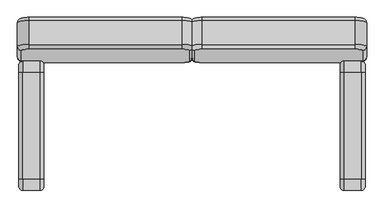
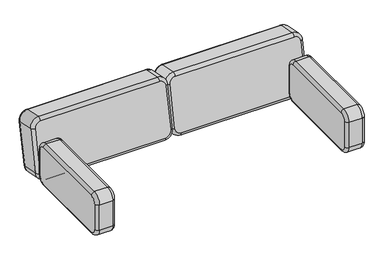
"""IFC4 building model written with IfcOpenShell, lengths in millimetres: furniture geometry, Fredericia - EJ220 Sofa 2 seater 76 - 2042 : Fredericia - EJ220 Sofa 2 seater 76 - 2042."""

from ifc_helpers import new_model, si_unit, point, frame, origin, place, context, project, spatial, circle_curve, ellipse_curve, trimmed, source, transform, mapped, element, save
from ifc_brep_helpers import plane_surface, cylinder_surface, revolved_surface, advanced_brep


def furniture_aac3e620(model_context):
    return source(origin(), model_context, "Body", "AdvancedBrep", [
        advanced_brep(
        [(747.3561856, 570.2227341, 660.8530588), (747.3561856, 110.2227341, 660.8530588), (747.3561856, 77.5549142, 628.1852389), (747.3561856, 77.5549142, 481.6311001), (747.3561856, 110.2227341, 448.9632801), (747.3561856, 570.2227341, 448.9632801), (747.3561856, 602.8905541, 481.6311001), (747.3561856, 602.8905541, 628.1852389), (639.6922336, 110.2227341, 660.8530588), (639.6922336, 570.2227341, 660.8530588), (639.6922336, 602.8905541, 628.1852389), (639.6922336, 602.8905541, 481.6311001), (639.6922336, 570.2227341, 448.9632801), (639.6922336, 110.2227341, 448.9632801), (639.6922336, 77.5549142, 481.6311001), (639.6922336, 77.5549142, 628.1852389), (730.0288568, 570.2227341, 678.1852389), (657.0355758, 570.2227341, 678.1852389), (657.0355758, 110.2227341, 678.1852389), (730.0288568, 110.2227341, 678.1852389), (730.0288568, 60.2227341, 628.1852389), (657.0355758, 60.2227341, 628.1852389), (657.0355758, 60.2227341, 481.6311001), (730.0288568, 60.2227341, 481.6311001), (730.0288568, 110.2227341, 431.6311001), (657.0355758, 110.2227341, 431.6311001), (657.0355758, 570.2227341, 431.6311001), (730.0288568, 570.2227341, 431.6311001), (730.0288568, 620.2227341, 481.6311001), (657.0355758, 620.2227341, 481.6311001), (657.0355758, 620.2227341, 628.1852389), (730.0288568, 620.2227341, 628.1852389)],
        [
            (0, 1),
            (1, 2, circle_curve(frame((747.3561856, 110.2227341, 628.1852389), z_axis=(1.0, 0.0, 0.0), x_axis=(0.0, 0.0, 1.0)), 32.6678199)),
            (2, 3),
            (3, 4, circle_curve(frame((747.3561856, 110.2227341, 481.6311001), z_axis=(1.0, 0.0, 0.0), x_axis=(0.0, -1.0, 0.0)), 32.6678199)),
            (4, 5),
            (5, 6, circle_curve(frame((747.3561856, 570.2227341, 481.6311001), z_axis=(1.0, 0.0, 0.0), x_axis=(0.0, 0.0, -1.0)), 32.6678199)),
            (6, 7),
            (7, 0, circle_curve(frame((747.3561856, 570.2227341, 628.1852389), z_axis=(1.0, 0.0, 0.0), x_axis=(0.0, 1.0, 0.0)), 32.6678199)),
            (8, 9),
            (9, 10, circle_curve(frame((639.6922336, 570.2227341, 628.1852389), z_axis=(-1.0, 0.0, 0.0), x_axis=(0.0, 1.0, 0.0)), 32.6678199)),
            (10, 11),
            (11, 12, circle_curve(frame((639.6922336, 570.2227341, 481.6311001), z_axis=(-1.0, 0.0, 0.0), x_axis=(0.0, 0.0, -1.0)), 32.6678199)),
            (12, 13),
            (13, 14, circle_curve(frame((639.6922336, 110.2227341, 481.6311001), z_axis=(-1.0, 0.0, 0.0), x_axis=(0.0, -1.0, 0.0)), 32.6678199)),
            (14, 15),
            (15, 8, circle_curve(frame((639.6922336, 110.2227341, 628.1852389), z_axis=(-1.0, 0.0, 0.0), x_axis=(0.0, 0.0, 1.0)), 32.6678199)),
            (16, 17),
            (17, 18),
            (18, 19),
            (19, 16),
            (20, 21),
            (21, 22),
            (22, 23),
            (23, 20),
            (24, 25),
            (25, 26),
            (26, 27),
            (27, 24),
            (28, 29),
            (29, 30),
            (30, 31),
            (31, 28),
            (19, 1, circle_curve(frame((730.0288568, 110.2227341, 660.8530588), z_axis=(0.0, 1.0, 0.0), x_axis=(0.0, 0.0, -1.0)), 17.3321801)),
            (0, 16, circle_curve(frame((730.0288568, 570.2227341, 660.8530588), z_axis=(0.0, -1.0, 0.0), x_axis=(0.0, 0.0, -1.0)), 17.3321801)),
            (17, 9, circle_curve(frame((657.0355758, 570.2227341, 660.8530588), z_axis=(0.0, -1.0, 0.0), x_axis=(0.0, 0.0, -1.0)), 17.3321801)),
            (8, 18, circle_curve(frame((657.0355758, 110.2227341, 660.8530588), z_axis=(0.0, 1.0, 0.0), x_axis=(0.0, 0.0, -1.0)), 17.3321801)),
            (23, 3, circle_curve(frame((730.0288568, 77.5549142, 481.6311001), z_axis=(0.0, 0.0, 1.0), x_axis=(0.0, 1.0, 0.0)), 17.3321801)),
            (2, 20, circle_curve(frame((730.0288568, 77.5549142, 628.1852389), z_axis=(0.0, 0.0, -1.0), x_axis=(0.0, 1.0, 0.0)), 17.3321801)),
            (21, 15, circle_curve(frame((657.0355758, 77.5549142, 628.1852389), z_axis=(0.0, 0.0, -1.0), x_axis=(0.0, 1.0, 0.0)), 17.3321801)),
            (14, 22, circle_curve(frame((657.0355758, 77.5549142, 481.6311001), z_axis=(0.0, 0.0, 1.0), x_axis=(0.0, 1.0, 0.0)), 17.3321801)),
            (27, 5, circle_curve(frame((730.0288568, 570.2227341, 448.9632801), z_axis=(0.0, -1.0, 0.0), x_axis=(0.0, 0.0, 1.0)), 17.3321801)),
            (4, 24, circle_curve(frame((730.0288568, 110.2227341, 448.9632801), z_axis=(0.0, 1.0, 0.0), x_axis=(0.0, 0.0, 1.0)), 17.3321801)),
            (25, 13, circle_curve(frame((657.0355758, 110.2227341, 448.9632801), z_axis=(0.0, 1.0, 0.0), x_axis=(0.0, 0.0, 1.0)), 17.3321801)),
            (12, 26, circle_curve(frame((657.0355758, 570.2227341, 448.9632801), z_axis=(0.0, -1.0, 0.0), x_axis=(0.0, 0.0, 1.0)), 17.3321801)),
            (31, 7, circle_curve(frame((730.0288568, 602.8905541, 628.1852389), z_axis=(0.0, 0.0, -1.0), x_axis=(0.0, -1.0, 0.0)), 17.3321801)),
            (6, 28, circle_curve(frame((730.0288568, 602.8905541, 481.6311001), z_axis=(0.0, 0.0, 1.0), x_axis=(0.0, -1.0, 0.0)), 17.3321801)),
            (29, 11, circle_curve(frame((657.0355758, 602.8905541, 481.6311001), z_axis=(0.0, 0.0, 1.0), x_axis=(0.0, -1.0, 0.0)), 17.3321801)),
            (10, 30, circle_curve(frame((657.0355758, 602.8905541, 628.1852389), z_axis=(0.0, 0.0, -1.0), x_axis=(0.0, -1.0, 0.0)), 17.3321801)),
            (31, 16, circle_curve(frame((730.0288568, 570.2227341, 628.1852389), z_axis=(1.0, 0.0, 0.0), x_axis=(0.0, 1.0, 0.0)), 50.0)),
            (30, 17, circle_curve(frame((657.0355758, 570.2227341, 628.1852389), z_axis=(1.0, 0.0, 0.0), x_axis=(0.0, 1.0, 0.0)), 50.0)),
            (19, 20, circle_curve(frame((730.0288568, 110.2227341, 628.1852389), z_axis=(1.0, 0.0, 0.0), x_axis=(0.0, 0.0, 1.0)), 50.0)),
            (18, 21, circle_curve(frame((657.0355758, 110.2227341, 628.1852389), z_axis=(1.0, 0.0, 0.0), x_axis=(0.0, 0.0, 1.0)), 50.0)),
            (23, 24, circle_curve(frame((730.0288568, 110.2227341, 481.6311001), z_axis=(1.0, 0.0, 0.0), x_axis=(0.0, -1.0, 0.0)), 50.0)),
            (22, 25, circle_curve(frame((657.0355758, 110.2227341, 481.6311001), z_axis=(1.0, 0.0, 0.0), x_axis=(0.0, -1.0, 0.0)), 50.0)),
            (27, 28, circle_curve(frame((730.0288568, 570.2227341, 481.6311001), z_axis=(1.0, 0.0, 0.0), x_axis=(0.0, 0.0, -1.0)), 50.0)),
            (26, 29, circle_curve(frame((657.0355758, 570.2227341, 481.6311001), z_axis=(1.0, 0.0, 0.0), x_axis=(0.0, 0.0, -1.0)), 50.0)),
        ],
        [
            plane_surface(frame((747.3561856, 110.2227341, 598.1852389), z_axis=(1.0, 0.0, 0.0), x_axis=(0.0, 1.0, 0.0))),
            plane_surface(frame((639.6922336, 110.2227341, 598.1852389), z_axis=(-1.0, 0.0, 0.0), x_axis=(0.0, -1.0, 0.0))),
            plane_surface(frame((657.0355758, 570.2227341, 678.1852389), z_axis=(0.0, 0.0, 1.0), x_axis=(0.0, -1.0, 0.0))),
            plane_surface(frame((657.0355758, 60.2227341, 628.1852389), z_axis=(0.0, -1.0, 0.0), x_axis=(0.0, 0.0, -1.0))),
            plane_surface(frame((657.0355758, 110.2227341, 431.6311001), z_axis=(0.0, 0.0, -1.0), x_axis=(0.0, 1.0, 0.0))),
            plane_surface(frame((657.0355758, 620.2227341, 481.6311001), z_axis=(0.0, 1.0, 0.0), x_axis=(0.0, 0.0, 1.0))),
            cylinder_surface(frame((730.0288568, 570.2227341, 660.8530588), z_axis=(0.0, 1.0, 0.0), x_axis=(0.0, 0.0, -1.0)), 17.3321801),
            cylinder_surface(frame((657.0355758, 570.2227341, 660.8530588), z_axis=(0.0, 1.0, 0.0), x_axis=(0.0, 0.0, -1.0)), 17.3321801),
            cylinder_surface(frame((730.0288568, 77.5549142, 628.1852389), z_axis=(0.0, 0.0, 1.0), x_axis=(0.0, 1.0, 0.0)), 17.3321801),
            cylinder_surface(frame((657.0355758, 77.5549142, 628.1852389), z_axis=(0.0, 0.0, 1.0), x_axis=(0.0, 1.0, 0.0)), 17.3321801),
            cylinder_surface(frame((730.0288568, 110.2227341, 448.9632801), z_axis=(0.0, -1.0, 0.0), x_axis=(0.0, 0.0, 1.0)), 17.3321801),
            cylinder_surface(frame((657.0355758, 110.2227341, 448.9632801), z_axis=(0.0, -1.0, 0.0), x_axis=(0.0, 0.0, 1.0)), 17.3321801),
            cylinder_surface(frame((730.0288568, 602.8905541, 481.6311001), z_axis=(0.0, 0.0, -1.0), x_axis=(0.0, -1.0, 0.0)), 17.3321801),
            cylinder_surface(frame((657.0355758, 602.8905541, 481.6311001), z_axis=(0.0, 0.0, -1.0), x_axis=(0.0, -1.0, 0.0)), 17.3321801),
            revolved_surface(trimmed(ellipse_curve(frame((730.0288568, 602.8905541, 628.1852389), z_axis=(0.0, 0.0, -1.0), x_axis=(0.0, -1.0, 0.0)), 17.3321801, 17.3321801), [point((730.0288568, 620.2227341, 628.1852389))], [point((747.3610368, 602.8905541, 628.1852389))], True, "CARTESIAN"), (562.639204, 570.2227341, 628.1852389), (1.0, 0.0, 0.0)),
            cylinder_surface(frame((562.639204, 570.2227341, 628.1852389), z_axis=(1.0, 0.0, 0.0), x_axis=(0.0, 1.0, 0.0)), 50.0),
            revolved_surface(trimmed(ellipse_curve(frame((657.0355758, 602.8905541, 628.1852389), z_axis=(0.0, 0.0, -1.0), x_axis=(0.0, -1.0, 0.0)), 17.3321801, 17.3321801), [point((639.7033957, 602.8905541, 628.1852389))], [point((657.0355758, 620.2227341, 628.1852389))], True, "CARTESIAN"), (562.639204, 570.2227341, 628.1852389), (1.0, 0.0, 0.0)),
            revolved_surface(trimmed(ellipse_curve(frame((730.0288568, 110.2227341, 660.8530588), z_axis=(0.0, 1.0, 0.0), x_axis=(0.0, 0.0, -1.0)), 17.3321801, 17.3321801), [point((730.0288568, 110.2227341, 678.1852389))], [point((747.3610368, 110.2227341, 660.8530588))], True, "CARTESIAN"), (562.639204, 110.2227341, 628.1852389), (1.0, 0.0, 0.0)),
            cylinder_surface(frame((562.639204, 110.2227341, 628.1852389), z_axis=(1.0, 0.0, 0.0), x_axis=(0.0, 0.0, 1.0)), 50.0),
            revolved_surface(trimmed(ellipse_curve(frame((657.0355758, 110.2227341, 660.8530588), z_axis=(0.0, 1.0, 0.0), x_axis=(0.0, 0.0, -1.0)), 17.3321801, 17.3321801), [point((639.7033957, 110.2227341, 660.8530588))], [point((657.0355758, 110.2227341, 678.1852389))], True, "CARTESIAN"), (562.639204, 110.2227341, 628.1852389), (1.0, 0.0, 0.0)),
            revolved_surface(trimmed(ellipse_curve(frame((730.0288568, 77.5549142, 481.6311001), z_axis=(0.0, 0.0, 1.0), x_axis=(0.0, 1.0, 0.0)), 17.3321801, 17.3321801), [point((730.0288568, 60.2227341, 481.6311001))], [point((747.3610368, 77.5549142, 481.6311001))], True, "CARTESIAN"), (562.639204, 110.2227341, 481.6311001), (1.0, 0.0, 0.0)),
            cylinder_surface(frame((562.639204, 110.2227341, 481.6311001), z_axis=(1.0, 0.0, 0.0), x_axis=(0.0, -1.0, 0.0)), 50.0),
            revolved_surface(trimmed(ellipse_curve(frame((657.0355758, 77.5549142, 481.6311001), z_axis=(0.0, 0.0, 1.0), x_axis=(0.0, 1.0, 0.0)), 17.3321801, 17.3321801), [point((639.7033957, 77.5549142, 481.6311001))], [point((657.0355758, 60.2227341, 481.6311001))], True, "CARTESIAN"), (562.639204, 110.2227341, 481.6311001), (1.0, 0.0, 0.0)),
            revolved_surface(trimmed(ellipse_curve(frame((730.0288568, 570.2227341, 448.9632801), z_axis=(0.0, -1.0, 0.0), x_axis=(0.0, 0.0, 1.0)), 17.3321801, 17.3321801), [point((730.0288568, 570.2227341, 431.6311001))], [point((747.3610368, 570.2227341, 448.9632801))], True, "CARTESIAN"), (562.639204, 570.2227341, 481.6311001), (1.0, 0.0, 0.0)),
            cylinder_surface(frame((562.639204, 570.2227341, 481.6311001), z_axis=(1.0, 0.0, 0.0), x_axis=(0.0, 0.0, -1.0)), 50.0),
            revolved_surface(trimmed(ellipse_curve(frame((657.0355758, 570.2227341, 448.9632801), z_axis=(0.0, -1.0, 0.0), x_axis=(0.0, 0.0, 1.0)), 17.3321801, 17.3321801), [point((639.7033957, 570.2227341, 448.9632801))], [point((657.0355758, 570.2227341, 431.6311001))], True, "CARTESIAN"), (562.639204, 570.2227341, 481.6311001), (1.0, 0.0, 0.0)),
        ],
        [
            (0, [[1, 2, 3, 4, 5, 6, 7, 8]]),
            (1, [[9, 10, 11, 12, 13, 14, 15, 16]]),
            (2, [[17, 18, 19, 20]]),
            (3, [[21, 22, 23, 24]]),
            (4, [[25, 26, 27, 28]]),
            (5, [[29, 30, 31, 32]]),
            (6, [[-20, 33, -1, 34]]),
            (7, [[-18, 35, -9, 36]]),
            (8, [[-24, 37, -3, 38]]),
            (9, [[-22, 39, -15, 40]]),
            (10, [[-28, 41, -5, 42]]),
            (11, [[-26, 43, -13, 44]]),
            (12, [[-32, 45, -7, 46]]),
            (13, [[-30, 47, -11, 48]]),
            (14, [[-34, -8, -45, 49]]),
            (15, [[-17, -49, -31, 50]]),
            (16, [[-35, -50, -48, -10]]),
            (17, [[-33, 51, -38, -2]]),
            (18, [[-19, 52, -21, -51]]),
            (19, [[-36, -16, -39, -52]]),
            (20, [[-37, 53, -42, -4]]),
            (21, [[-23, 54, -25, -53]]),
            (22, [[-40, -14, -43, -54]]),
            (23, [[-41, 55, -46, -6]]),
            (24, [[-27, 56, -29, -55]]),
            (25, [[-44, -12, -47, -56]]),
        ],
    ),
        advanced_brep(
        [(-747.3561856, 110.2227341, 660.8530588), (-747.3561856, 570.2227341, 660.8530588), (-747.3561856, 602.8905541, 628.1852389), (-747.3561856, 602.8905541, 481.6311001), (-747.3561856, 570.2227341, 448.9632801), (-747.3561856, 110.2227341, 448.9632801), (-747.3561856, 77.5549142, 481.6311001), (-747.3561856, 77.5549142, 628.1852389), (-639.6922336, 570.2227341, 660.8530588), (-639.6922336, 110.2227341, 660.8530588), (-639.6922336, 77.5549142, 628.1852389), (-639.6922336, 77.5549142, 481.6311001), (-639.6922336, 110.2227341, 448.9632801), (-639.6922336, 570.2227341, 448.9632801), (-639.6922336, 602.8905541, 481.6311001), (-639.6922336, 602.8905541, 628.1852389), (-657.0355758, 570.2227341, 678.1852389), (-730.0288568, 570.2227341, 678.1852389), (-730.0288568, 110.2227341, 678.1852389), (-657.0355758, 110.2227341, 678.1852389), (-657.0355758, 60.2227341, 628.1852389), (-730.0288568, 60.2227341, 628.1852389), (-730.0288568, 60.2227341, 481.6311001), (-657.0355758, 60.2227341, 481.6311001), (-657.0355758, 110.2227341, 431.6311001), (-730.0288568, 110.2227341, 431.6311001), (-730.0288568, 570.2227341, 431.6311001), (-657.0355758, 570.2227341, 431.6311001), (-657.0355758, 620.2227341, 481.6311001), (-730.0288568, 620.2227341, 481.6311001), (-730.0288568, 620.2227341, 628.1852389), (-657.0355758, 620.2227341, 628.1852389)],
        [
            (0, 1),
            (1, 2, circle_curve(frame((-747.3561856, 570.2227341, 628.1852389), z_axis=(-1.0, 0.0, 0.0), x_axis=(0.0, 1.0, 0.0)), 32.6678199)),
            (2, 3),
            (3, 4, circle_curve(frame((-747.3561856, 570.2227341, 481.6311001), z_axis=(-1.0, 0.0, 0.0), x_axis=(0.0, 0.0, -1.0)), 32.6678199)),
            (4, 5),
            (5, 6, circle_curve(frame((-747.3561856, 110.2227341, 481.6311001), z_axis=(-1.0, 0.0, 0.0), x_axis=(0.0, -1.0, 0.0)), 32.6678199)),
            (6, 7),
            (7, 0, circle_curve(frame((-747.3561856, 110.2227341, 628.1852389), z_axis=(-1.0, 0.0, 0.0), x_axis=(0.0, 0.0, 1.0)), 32.6678199)),
            (8, 9),
            (9, 10, circle_curve(frame((-639.6922336, 110.2227341, 628.1852389), z_axis=(1.0, 0.0, 0.0), x_axis=(0.0, 0.0, 1.0)), 32.6678199)),
            (10, 11),
            (11, 12, circle_curve(frame((-639.6922336, 110.2227341, 481.6311001), z_axis=(1.0, 0.0, 0.0), x_axis=(0.0, -1.0, 0.0)), 32.6678199)),
            (12, 13),
            (13, 14, circle_curve(frame((-639.6922336, 570.2227341, 481.6311001), z_axis=(1.0, 0.0, 0.0), x_axis=(0.0, 0.0, -1.0)), 32.6678199)),
            (14, 15),
            (15, 8, circle_curve(frame((-639.6922336, 570.2227341, 628.1852389), z_axis=(1.0, 0.0, 0.0), x_axis=(0.0, 1.0, 0.0)), 32.6678199)),
            (16, 17),
            (17, 18),
            (18, 19),
            (19, 16),
            (20, 21),
            (21, 22),
            (22, 23),
            (23, 20),
            (24, 25),
            (25, 26),
            (26, 27),
            (27, 24),
            (28, 29),
            (29, 30),
            (30, 31),
            (31, 28),
            (17, 1, circle_curve(frame((-730.0288568, 570.2227341, 660.8530588), z_axis=(0.0, -1.0, 0.0), x_axis=(0.0, 0.0, -1.0)), 17.3321801)),
            (0, 18, circle_curve(frame((-730.0288568, 110.2227341, 660.8530588), z_axis=(0.0, 1.0, 0.0), x_axis=(0.0, 0.0, -1.0)), 17.3321801)),
            (19, 9, circle_curve(frame((-657.0355758, 110.2227341, 660.8530588), z_axis=(0.0, 1.0, 0.0), x_axis=(0.0, 0.0, -1.0)), 17.3321801)),
            (8, 16, circle_curve(frame((-657.0355758, 570.2227341, 660.8530588), z_axis=(0.0, -1.0, 0.0), x_axis=(0.0, 0.0, -1.0)), 17.3321801)),
            (21, 7, circle_curve(frame((-730.0288568, 77.5549142, 628.1852389), z_axis=(0.0, 0.0, -1.0), x_axis=(0.0, 1.0, 0.0)), 17.3321801)),
            (6, 22, circle_curve(frame((-730.0288568, 77.5549142, 481.6311001), z_axis=(0.0, 0.0, 1.0), x_axis=(0.0, 1.0, 0.0)), 17.3321801)),
            (23, 11, circle_curve(frame((-657.0355758, 77.5549142, 481.6311001), z_axis=(0.0, 0.0, 1.0), x_axis=(0.0, 1.0, 0.0)), 17.3321801)),
            (10, 20, circle_curve(frame((-657.0355758, 77.5549142, 628.1852389), z_axis=(0.0, 0.0, -1.0), x_axis=(0.0, 1.0, 0.0)), 17.3321801)),
            (25, 5, circle_curve(frame((-730.0288568, 110.2227341, 448.9632801), z_axis=(0.0, 1.0, 0.0), x_axis=(0.0, 0.0, 1.0)), 17.3321801)),
            (4, 26, circle_curve(frame((-730.0288568, 570.2227341, 448.9632801), z_axis=(0.0, -1.0, 0.0), x_axis=(0.0, 0.0, 1.0)), 17.3321801)),
            (27, 13, circle_curve(frame((-657.0355758, 570.2227341, 448.9632801), z_axis=(0.0, -1.0, 0.0), x_axis=(0.0, 0.0, 1.0)), 17.3321801)),
            (12, 24, circle_curve(frame((-657.0355758, 110.2227341, 448.9632801), z_axis=(0.0, 1.0, 0.0), x_axis=(0.0, 0.0, 1.0)), 17.3321801)),
            (29, 3, circle_curve(frame((-730.0288568, 602.8905541, 481.6311001), z_axis=(0.0, 0.0, 1.0), x_axis=(0.0, -1.0, 0.0)), 17.3321801)),
            (2, 30, circle_curve(frame((-730.0288568, 602.8905541, 628.1852389), z_axis=(0.0, 0.0, -1.0), x_axis=(0.0, -1.0, 0.0)), 17.3321801)),
            (31, 15, circle_curve(frame((-657.0355758, 602.8905541, 628.1852389), z_axis=(0.0, 0.0, -1.0), x_axis=(0.0, -1.0, 0.0)), 17.3321801)),
            (14, 28, circle_curve(frame((-657.0355758, 602.8905541, 481.6311001), z_axis=(0.0, 0.0, 1.0), x_axis=(0.0, -1.0, 0.0)), 17.3321801)),
            (17, 30, circle_curve(frame((-730.0288568, 570.2227341, 628.1852389), z_axis=(-1.0, 0.0, 0.0), x_axis=(0.0, 1.0, 0.0)), 50.0)),
            (16, 31, circle_curve(frame((-657.0355758, 570.2227341, 628.1852389), z_axis=(-1.0, 0.0, 0.0), x_axis=(0.0, 1.0, 0.0)), 50.0)),
            (21, 18, circle_curve(frame((-730.0288568, 110.2227341, 628.1852389), z_axis=(-1.0, 0.0, 0.0), x_axis=(0.0, 0.0, 1.0)), 50.0)),
            (20, 19, circle_curve(frame((-657.0355758, 110.2227341, 628.1852389), z_axis=(-1.0, 0.0, 0.0), x_axis=(0.0, 0.0, 1.0)), 50.0)),
            (25, 22, circle_curve(frame((-730.0288568, 110.2227341, 481.6311001), z_axis=(-1.0, 0.0, 0.0), x_axis=(0.0, -1.0, 0.0)), 50.0)),
            (24, 23, circle_curve(frame((-657.0355758, 110.2227341, 481.6311001), z_axis=(-1.0, 0.0, 0.0), x_axis=(0.0, -1.0, 0.0)), 50.0)),
            (29, 26, circle_curve(frame((-730.0288568, 570.2227341, 481.6311001), z_axis=(-1.0, 0.0, 0.0), x_axis=(0.0, 0.0, -1.0)), 50.0)),
            (28, 27, circle_curve(frame((-657.0355758, 570.2227341, 481.6311001), z_axis=(-1.0, 0.0, 0.0), x_axis=(0.0, 0.0, -1.0)), 50.0)),
        ],
        [
            plane_surface(frame((-747.3561856, 80.2227341, 34.6780204), z_axis=(-1.0, 0.0, 0.0), x_axis=(0.0, 0.0, 1.0))),
            plane_surface(frame((-639.6922336, 80.2227341, 34.6780204), z_axis=(1.0, 0.0, 0.0), x_axis=(0.0, 0.0, -1.0))),
            plane_surface(frame((-730.0288568, 570.2227341, 678.1852389), z_axis=(0.0, 0.0, 1.0), x_axis=(0.0, -1.0, 0.0))),
            plane_surface(frame((-730.0288568, 60.2227341, 628.1852389), z_axis=(0.0, -1.0, 0.0), x_axis=(0.0, 0.0, -1.0))),
            plane_surface(frame((-730.0288568, 110.2227341, 431.6311001), z_axis=(0.0, 0.0, -1.0), x_axis=(0.0, 1.0, 0.0))),
            plane_surface(frame((-730.0288568, 620.2227341, 481.6311001), z_axis=(0.0, 1.0, 0.0), x_axis=(0.0, 0.0, 1.0))),
            cylinder_surface(frame((-730.0288568, 570.2227341, 660.8530588), z_axis=(0.0, 1.0, 0.0), x_axis=(0.0, 0.0, -1.0)), 17.3321801),
            cylinder_surface(frame((-657.0355758, 570.2227341, 660.8530588), z_axis=(0.0, 1.0, 0.0), x_axis=(0.0, 0.0, -1.0)), 17.3321801),
            cylinder_surface(frame((-730.0288568, 77.5549142, 628.1852389), z_axis=(0.0, 0.0, 1.0), x_axis=(0.0, 1.0, 0.0)), 17.3321801),
            cylinder_surface(frame((-657.0355758, 77.5549142, 628.1852389), z_axis=(0.0, 0.0, 1.0), x_axis=(0.0, 1.0, 0.0)), 17.3321801),
            cylinder_surface(frame((-730.0288568, 110.2227341, 448.9632801), z_axis=(0.0, -1.0, 0.0), x_axis=(0.0, 0.0, 1.0)), 17.3321801),
            cylinder_surface(frame((-657.0355758, 110.2227341, 448.9632801), z_axis=(0.0, -1.0, 0.0), x_axis=(0.0, 0.0, 1.0)), 17.3321801),
            cylinder_surface(frame((-730.0288568, 602.8905541, 481.6311001), z_axis=(0.0, 0.0, -1.0), x_axis=(0.0, -1.0, 0.0)), 17.3321801),
            cylinder_surface(frame((-657.0355758, 602.8905541, 481.6311001), z_axis=(0.0, 0.0, -1.0), x_axis=(0.0, -1.0, 0.0)), 17.3321801),
            revolved_surface(trimmed(ellipse_curve(frame((-730.0288568, 602.8905541, 628.1852389), z_axis=(0.0, 0.0, -1.0), x_axis=(0.0, -1.0, 0.0)), 17.3321801, 17.3321801), [point((-747.3610368, 602.8905541, 628.1852389))], [point((-730.0288568, 620.2227341, 628.1852389))], True, "CARTESIAN"), (-562.639204, 570.2227341, 628.1852389), (1.0, 0.0, 0.0)),
            cylinder_surface(frame((-562.639204, 570.2227341, 628.1852389), z_axis=(1.0, 0.0, 0.0), x_axis=(0.0, 1.0, 0.0)), 50.0),
            revolved_surface(trimmed(ellipse_curve(frame((-657.0355758, 602.8905541, 628.1852389), z_axis=(0.0, 0.0, -1.0), x_axis=(0.0, -1.0, 0.0)), 17.3321801, 17.3321801), [point((-657.0355758, 620.2227341, 628.1852389))], [point((-639.7033957, 602.8905541, 628.1852389))], True, "CARTESIAN"), (-562.639204, 570.2227341, 628.1852389), (1.0, 0.0, 0.0)),
            revolved_surface(trimmed(ellipse_curve(frame((-730.0288568, 110.2227341, 660.8530588), z_axis=(0.0, 1.0, 0.0), x_axis=(0.0, 0.0, -1.0)), 17.3321801, 17.3321801), [point((-747.3610368, 110.2227341, 660.8530588))], [point((-730.0288568, 110.2227341, 678.1852389))], True, "CARTESIAN"), (-562.639204, 110.2227341, 628.1852389), (1.0, 0.0, 0.0)),
            cylinder_surface(frame((-562.639204, 110.2227341, 628.1852389), z_axis=(1.0, 0.0, 0.0), x_axis=(0.0, 0.0, 1.0)), 50.0),
            revolved_surface(trimmed(ellipse_curve(frame((-657.0355758, 110.2227341, 660.8530588), z_axis=(0.0, 1.0, 0.0), x_axis=(0.0, 0.0, -1.0)), 17.3321801, 17.3321801), [point((-657.0355758, 110.2227341, 678.1852389))], [point((-639.7033957, 110.2227341, 660.8530588))], True, "CARTESIAN"), (-562.639204, 110.2227341, 628.1852389), (1.0, 0.0, 0.0)),
            revolved_surface(trimmed(ellipse_curve(frame((-730.0288568, 77.5549142, 481.6311001), z_axis=(0.0, 0.0, 1.0), x_axis=(0.0, 1.0, 0.0)), 17.3321801, 17.3321801), [point((-747.3610368, 77.5549142, 481.6311001))], [point((-730.0288568, 60.2227341, 481.6311001))], True, "CARTESIAN"), (-562.639204, 110.2227341, 481.6311001), (1.0, 0.0, 0.0)),
            cylinder_surface(frame((-562.639204, 110.2227341, 481.6311001), z_axis=(1.0, 0.0, 0.0), x_axis=(0.0, -1.0, 0.0)), 50.0),
            revolved_surface(trimmed(ellipse_curve(frame((-657.0355758, 77.5549142, 481.6311001), z_axis=(0.0, 0.0, 1.0), x_axis=(0.0, 1.0, 0.0)), 17.3321801, 17.3321801), [point((-657.0355758, 60.2227341, 481.6311001))], [point((-639.7033957, 77.5549142, 481.6311001))], True, "CARTESIAN"), (-562.639204, 110.2227341, 481.6311001), (1.0, 0.0, 0.0)),
            revolved_surface(trimmed(ellipse_curve(frame((-730.0288568, 570.2227341, 448.9632801), z_axis=(0.0, -1.0, 0.0), x_axis=(0.0, 0.0, 1.0)), 17.3321801, 17.3321801), [point((-747.3610368, 570.2227341, 448.9632801))], [point((-730.0288568, 570.2227341, 431.6311001))], True, "CARTESIAN"), (-562.639204, 570.2227341, 481.6311001), (1.0, 0.0, 0.0)),
            cylinder_surface(frame((-562.639204, 570.2227341, 481.6311001), z_axis=(1.0, 0.0, 0.0), x_axis=(0.0, 0.0, -1.0)), 50.0),
            revolved_surface(trimmed(ellipse_curve(frame((-657.0355758, 570.2227341, 448.9632801), z_axis=(0.0, -1.0, 0.0), x_axis=(0.0, 0.0, 1.0)), 17.3321801, 17.3321801), [point((-657.0355758, 570.2227341, 431.6311001))], [point((-639.7033957, 570.2227341, 448.9632801))], True, "CARTESIAN"), (-562.639204, 570.2227341, 481.6311001), (1.0, 0.0, 0.0)),
        ],
        [
            (0, [[1, 2, 3, 4, 5, 6, 7, 8]]),
            (1, [[9, 10, 11, 12, 13, 14, 15, 16]]),
            (2, [[17, 18, 19, 20]]),
            (3, [[21, 22, 23, 24]]),
            (4, [[25, 26, 27, 28]]),
            (5, [[29, 30, 31, 32]]),
            (6, [[-18, 33, -1, 34]]),
            (7, [[-20, 35, -9, 36]]),
            (8, [[-22, 37, -7, 38]]),
            (9, [[-24, 39, -11, 40]]),
            (10, [[-26, 41, -5, 42]]),
            (11, [[-28, 43, -13, 44]]),
            (12, [[-30, 45, -3, 46]]),
            (13, [[-32, 47, -15, 48]]),
            (14, [[-33, 49, -46, -2]]),
            (15, [[-17, 50, -31, -49]]),
            (16, [[-36, -16, -47, -50]]),
            (17, [[-34, -8, -37, 51]]),
            (18, [[-19, -51, -21, 52]]),
            (19, [[-35, -52, -40, -10]]),
            (20, [[-38, -6, -41, 53]]),
            (21, [[-23, -53, -25, 54]]),
            (22, [[-39, -54, -44, -12]]),
            (23, [[-42, -4, -45, 55]]),
            (24, [[-27, -55, -29, 56]]),
            (25, [[-43, -56, -48, -14]]),
        ],
    ),
        advanced_brep(
        [(736.1484253, 619.8100699, 478.8361951), (736.1484253, 664.9135782, 710.8736296), (703.4806054, 671.1468921, 742.9412497), (45.0, 671.1468921, 742.9412497), (12.3321801, 664.9135782, 710.8736296), (12.3321801, 619.8100699, 478.8361951), (45.0, 613.576756, 446.7685751), (703.4806054, 613.576756, 446.7685751), (736.1484253, 802.1658592, 684.1944888), (736.1484253, 757.062351, 452.1570543), (703.4806054, 750.8290371, 420.0894343), (45.0, 750.8290371, 420.0894343), (12.3321801, 757.062351, 452.1570543), (12.3321801, 802.1658592, 684.1944888), (45.0, 808.3991731, 716.2621088), (703.4806054, 808.3991731, 716.2621088), (753.4806054, 636.819047, 475.5299849), (753.4806054, 740.0486118, 455.4641902), (753.4806054, 785.1521201, 687.5016246), (753.4806054, 681.9225552, 707.5674194), (703.4806054, 691.463005, 756.6487785), (703.4806054, 794.6925699, 736.5829838), (45.0, 794.6925699, 736.5829838), (45.0, 691.463005, 756.6487785), (-5.0, 681.9225552, 707.5674194), (-5.0, 785.1521201, 687.5016246), (-5.0, 740.0486118, 455.4641902), (-5.0, 636.819047, 475.5299849), (45.0, 627.2785972, 426.4486258), (45.0, 730.5081621, 406.382831), (703.4806054, 730.5081621, 406.382831), (703.4806054, 627.2785972, 426.4486258)],
        [
            (0, 1),
            (1, 2, circle_curve(frame((703.4806054, 664.9135782, 710.8736296), z_axis=(0.0, -0.9816271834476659, 0.1908089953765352), x_axis=(1.0, 0.0, 0.0)), 32.6678199)),
            (2, 3),
            (3, 4, circle_curve(frame((45.0, 664.9135782, 710.8736296), z_axis=(0.0, -0.9816271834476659, 0.1908089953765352), x_axis=(0.0, 0.1908089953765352, 0.9816271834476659)), 32.6678199)),
            (4, 5),
            (5, 6, circle_curve(frame((45.0, 619.8100699, 478.8361951), z_axis=(0.0, -0.9816271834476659, 0.1908089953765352), x_axis=(-1.0, 0.0, 0.0)), 32.6678199)),
            (6, 7),
            (7, 0, circle_curve(frame((703.4806054, 619.8100699, 478.8361951), z_axis=(0.0, -0.9816271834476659, 0.1908089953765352), x_axis=(0.0, -0.1908089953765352, -0.9816271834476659)), 32.6678199)),
            (8, 9),
            (9, 10, circle_curve(frame((703.4806054, 757.062351, 452.1570543), z_axis=(0.0, 0.9816271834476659, -0.1908089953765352), x_axis=(0.0, -0.1908089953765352, -0.9816271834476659)), 32.6678199)),
            (10, 11),
            (11, 12, circle_curve(frame((45.0, 757.062351, 452.1570543), z_axis=(0.0, 0.9816271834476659, -0.1908089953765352), x_axis=(-1.0, 0.0, 0.0)), 32.6678199)),
            (12, 13),
            (13, 14, circle_curve(frame((45.0, 802.1658592, 684.1944888), z_axis=(0.0, 0.9816271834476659, -0.1908089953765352), x_axis=(0.0, 0.1908089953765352, 0.9816271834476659)), 32.6678199)),
            (14, 15),
            (15, 8, circle_curve(frame((703.4806054, 802.1658592, 684.1944888), z_axis=(0.0, 0.9816271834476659, -0.1908089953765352), x_axis=(1.0, 0.0, 0.0)), 32.6678199)),
            (16, 17),
            (17, 18),
            (18, 19),
            (19, 16),
            (20, 21),
            (21, 22),
            (22, 23),
            (23, 20),
            (24, 25),
            (25, 26),
            (26, 27),
            (27, 24),
            (28, 29),
            (29, 30),
            (30, 31),
            (31, 28),
            (19, 1, circle_curve(frame((736.1484253, 681.9225552, 707.5674194), z_axis=(0.0, -0.19080899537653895, -0.9816271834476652), x_axis=(-1.0, 0.0, 0.0)), 17.3321801)),
            (0, 16, circle_curve(frame((736.1484253, 636.819047, 475.5299849), z_axis=(0.0, 0.19080899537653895, 0.9816271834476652), x_axis=(-1.0, 0.0, 0.0)), 17.3321801)),
            (17, 9, circle_curve(frame((736.1484253, 740.0486118, 455.4641902), z_axis=(0.0, 0.19080899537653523, 0.9816271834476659), x_axis=(-1.0, 0.0, 0.0)), 17.3321801)),
            (8, 18, circle_curve(frame((736.1484253, 785.1521201, 687.5016246), z_axis=(0.0, -0.19080899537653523, -0.9816271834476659), x_axis=(-1.0, 0.0, 0.0)), 17.3321801)),
            (23, 3, circle_curve(frame((45.0, 688.1558691, 739.6350394), z_axis=(1.0, 0.0, 0.0), x_axis=(0.0, -0.19080899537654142, -0.9816271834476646)), 17.3321801)),
            (2, 20, circle_curve(frame((703.4806054, 688.1558691, 739.6350394), z_axis=(-1.0, 0.0, 0.0), x_axis=(0.0, -0.19080899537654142, -0.9816271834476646)), 17.3321801)),
            (21, 15, circle_curve(frame((703.4806054, 791.385434, 719.5692447), z_axis=(-1.0, 0.0, 0.0), x_axis=(0.0, -0.19080899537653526, -0.9816271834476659)), 17.3321801)),
            (14, 22, circle_curve(frame((45.0, 791.385434, 719.5692447), z_axis=(1.0, 0.0, 0.0), x_axis=(0.0, -0.19080899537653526, -0.9816271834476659)), 17.3321801)),
            (27, 5, circle_curve(frame((12.3321801, 636.819047, 475.5299849), z_axis=(0.0, 0.19080899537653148, 0.9816271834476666), x_axis=(1.0, 0.0, 0.0)), 17.3321801)),
            (4, 24, circle_curve(frame((12.3321801, 681.9225552, 707.5674194), z_axis=(0.0, -0.19080899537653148, -0.9816271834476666), x_axis=(1.0, 0.0, 0.0)), 17.3321801)),
            (25, 13, circle_curve(frame((12.3321801, 785.1521201, 687.5016246), z_axis=(0.0, -0.1908089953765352, -0.981627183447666), x_axis=(1.0, 0.0, 0.0)), 17.3321801)),
            (12, 26, circle_curve(frame((12.3321801, 740.0486118, 455.4641902), z_axis=(0.0, 0.1908089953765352, 0.981627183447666), x_axis=(1.0, 0.0, 0.0)), 17.3321801)),
            (31, 7, circle_curve(frame((703.4806054, 630.585733, 443.4623649), z_axis=(-1.0, 0.0, 0.0), x_axis=(0.0, 0.19080899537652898, 0.9816271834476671)), 17.3321801)),
            (6, 28, circle_curve(frame((45.0, 630.585733, 443.4623649), z_axis=(1.0, 0.0, 0.0), x_axis=(0.0, 0.19080899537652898, 0.9816271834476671)), 17.3321801)),
            (29, 11, circle_curve(frame((45.0, 733.8152979, 423.3965701), z_axis=(1.0, 0.0, 0.0), x_axis=(0.0, 0.19080899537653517, 0.9816271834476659)), 17.3321801)),
            (10, 30, circle_curve(frame((703.4806054, 733.8152979, 423.3965701), z_axis=(-1.0, 0.0, 0.0), x_axis=(0.0, 0.19080899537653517, 0.9816271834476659)), 17.3321801)),
            (31, 16, circle_curve(frame((703.4806054, 636.819047, 475.5299849), z_axis=(0.0, -0.9816271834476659, 0.1908089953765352), x_axis=(0.0, -0.1908089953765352, -0.9816271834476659)), 50.0)),
            (30, 17, circle_curve(frame((703.4806054, 740.0486118, 455.4641902), z_axis=(0.0, -0.9816271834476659, 0.1908089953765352), x_axis=(0.0, -0.1908089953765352, -0.9816271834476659)), 50.0)),
            (19, 20, circle_curve(frame((703.4806054, 681.9225552, 707.5674194), z_axis=(0.0, -0.9816271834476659, 0.1908089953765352), x_axis=(1.0, 0.0, 0.0)), 50.0)),
            (18, 21, circle_curve(frame((703.4806054, 785.1521201, 687.5016246), z_axis=(0.0, -0.9816271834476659, 0.1908089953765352), x_axis=(1.0, 0.0, 0.0)), 50.0)),
            (23, 24, circle_curve(frame((45.0, 681.9225552, 707.5674194), z_axis=(0.0, -0.9816271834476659, 0.1908089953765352), x_axis=(0.0, 0.1908089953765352, 0.9816271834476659)), 50.0)),
            (22, 25, circle_curve(frame((45.0, 785.1521201, 687.5016246), z_axis=(0.0, -0.9816271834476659, 0.1908089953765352), x_axis=(0.0, 0.1908089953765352, 0.9816271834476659)), 50.0)),
            (27, 28, circle_curve(frame((45.0, 636.819047, 475.5299849), z_axis=(0.0, -0.9816271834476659, 0.1908089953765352), x_axis=(-1.0, 0.0, 0.0)), 50.0)),
            (26, 29, circle_curve(frame((45.0, 740.0486118, 455.4641902), z_axis=(0.0, -0.9816271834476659, 0.1908089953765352), x_axis=(-1.0, 0.0, 0.0)), 50.0)),
        ],
        [
            plane_surface(frame((673.4806054, 664.9135782, 710.8736296), z_axis=(0.0, -0.9816271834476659, 0.19080899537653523), x_axis=(0.0, -0.19080899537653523, -0.9816271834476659))),
            plane_surface(frame((673.4806054, 802.1658592, 684.1944888), z_axis=(0.0, 0.9816271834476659, -0.19080899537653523), x_axis=(0.0, 0.19080899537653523, 0.9816271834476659))),
            plane_surface(frame((753.4806054, 740.0486118, 455.4641902), z_axis=(1.0000000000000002, 0.0, 0.0), x_axis=(0.0, 0.19080899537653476, 0.981627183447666))),
            plane_surface(frame((703.4806054, 794.6925699, 736.5829838), z_axis=(0.0, 0.19080899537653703, 0.9816271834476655), x_axis=(-1.0, 0.0, 0.0))),
            plane_surface(frame((-5.0, 785.1521201, 687.5016246), z_axis=(-1.0000000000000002, 0.0, 0.0), x_axis=(0.0, -0.19080899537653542, -0.9816271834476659))),
            plane_surface(frame((45.0, 730.5081621, 406.382831), z_axis=(0.0, -0.19080899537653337, -0.9816271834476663), x_axis=(1.0, 0.0, 0.0))),
            cylinder_surface(frame((736.1484253, 636.819047, 475.5299849), z_axis=(0.0, -0.19080899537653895, -0.9816271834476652), x_axis=(-1.0, 0.0, 0.0)), 17.3321801),
            cylinder_surface(frame((736.1484253, 740.0486118, 455.4641902), z_axis=(0.0, -0.19080899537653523, -0.9816271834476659), x_axis=(-1.0, 0.0, 0.0)), 17.3321801),
            cylinder_surface(frame((703.4806054, 688.1558691, 739.6350394), z_axis=(1.0000000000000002, 0.0, 0.0), x_axis=(0.0, -0.19080899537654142, -0.9816271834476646)), 17.3321801),
            cylinder_surface(frame((703.4806054, 791.385434, 719.5692447), z_axis=(1.0000000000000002, 0.0, 0.0), x_axis=(0.0, -0.19080899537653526, -0.9816271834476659)), 17.3321801),
            cylinder_surface(frame((12.3321801, 681.9225552, 707.5674194), z_axis=(0.0, 0.19080899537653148, 0.9816271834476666), x_axis=(1.0, 0.0, 0.0)), 17.3321801),
            cylinder_surface(frame((12.3321801, 785.1521201, 687.5016246), z_axis=(0.0, 0.19080899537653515, 0.9816271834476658), x_axis=(1.0, 0.0, 0.0)), 17.3321801),
            cylinder_surface(frame((45.0, 630.585733, 443.4623649), z_axis=(-1.0000000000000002, 0.0, 0.0), x_axis=(0.0, 0.19080899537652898, 0.9816271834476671)), 17.3321801),
            cylinder_surface(frame((45.0, 733.8152979, 423.3965701), z_axis=(-1.0, 0.0, 0.0), x_axis=(0.0, 0.19080899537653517, 0.9816271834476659)), 17.3321801),
            revolved_surface(trimmed(ellipse_curve(frame((703.4806054, 630.585733, 443.4623649), z_axis=(-1.0000000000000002, 0.0, 0.0), x_axis=(0.0, 0.190808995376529, 0.9816271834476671)), 17.3321801, 17.3321801), [point((703.4806054, 627.2785972, 426.4486258))], [point((703.4806054, 613.5719939, 446.7695007))], True, "CARTESIAN"), (703.4806054, 801.1332803, 443.5905334), (0.0, -0.9816271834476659, 0.1908089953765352)),
            cylinder_surface(frame((703.4806054, 801.1332803, 443.5905334), z_axis=(0.0, -0.9816271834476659, 0.1908089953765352), x_axis=(0.0, -0.1908089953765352, -0.9816271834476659)), 50.0),
            revolved_surface(trimmed(ellipse_curve(frame((703.4806054, 733.8152979, 423.3965701), z_axis=(-1.0000000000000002, 0.0, 0.0), x_axis=(0.0, 0.19080899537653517, 0.9816271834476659)), 17.3321801, 17.3321801), [point((703.4806054, 750.8290371, 420.0894343))], [point((703.4806054, 730.5081621, 406.382831))], True, "CARTESIAN"), (703.4806054, 801.1332803, 443.5905334), (0.0, -0.9816271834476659, 0.1908089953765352)),
            revolved_surface(trimmed(ellipse_curve(frame((736.1484253, 681.9225552, 707.5674194), z_axis=(0.0, -0.19080899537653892, -0.9816271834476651), x_axis=(-1.0, 0.0, 0.0)), 17.3321801, 17.3321801), [point((753.4806054, 681.9225552, 707.5674194))], [point((736.1484253, 664.9088161, 710.8745552))], True, "CARTESIAN"), (703.4806054, 846.2367886, 675.6279679), (0.0, -0.9816271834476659, 0.1908089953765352)),
            cylinder_surface(frame((703.4806054, 846.2367886, 675.6279679), z_axis=(0.0, -0.9816271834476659, 0.1908089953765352), x_axis=(1.0, 0.0, 0.0)), 50.0),
            revolved_surface(trimmed(ellipse_curve(frame((736.1484253, 785.1521201, 687.5016246), z_axis=(0.0, -0.19080899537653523, -0.9816271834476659), x_axis=(-1.0, 0.0, 0.0)), 17.3321801, 17.3321801), [point((736.1484253, 802.1658592, 684.1944888))], [point((753.4806054, 785.1521201, 687.5016246))], True, "CARTESIAN"), (703.4806054, 846.2367886, 675.6279679), (0.0, -0.9816271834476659, 0.1908089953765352)),
            revolved_surface(trimmed(ellipse_curve(frame((45.0, 688.1558691, 739.6350394), z_axis=(1.0000000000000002, 0.0, 0.0), x_axis=(0.0, -0.19080899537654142, -0.9816271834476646)), 17.3321801, 17.3321801), [point((45.0, 691.463005, 756.6487785))], [point((45.0, 671.14213, 742.9421753))], True, "CARTESIAN"), (45.0, 846.2367886, 675.6279679), (0.0, -0.9816271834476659, 0.1908089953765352)),
            cylinder_surface(frame((45.0, 846.2367886, 675.6279679), z_axis=(0.0, -0.9816271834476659, 0.1908089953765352), x_axis=(0.0, 0.1908089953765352, 0.9816271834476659)), 50.0),
            revolved_surface(trimmed(ellipse_curve(frame((45.0, 791.385434, 719.5692447), z_axis=(1.0000000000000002, 0.0, 0.0), x_axis=(0.0, -0.19080899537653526, -0.9816271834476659)), 17.3321801, 17.3321801), [point((45.0, 808.3991731, 716.2621088))], [point((45.0, 794.6925699, 736.5829838))], True, "CARTESIAN"), (45.0, 846.2367886, 675.6279679), (0.0, -0.9816271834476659, 0.1908089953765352)),
            revolved_surface(trimmed(ellipse_curve(frame((12.3321801, 636.819047, 475.5299849), z_axis=(0.0, 0.19080899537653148, 0.9816271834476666), x_axis=(1.0, 0.0, 0.0)), 17.3321801, 17.3321801), [point((-5.0, 636.819047, 475.5299849))], [point((12.3321801, 619.8053078, 478.8371208))], True, "CARTESIAN"), (45.0, 801.1332803, 443.5905334), (0.0, -0.9816271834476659, 0.1908089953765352)),
            cylinder_surface(frame((45.0, 801.1332803, 443.5905334), z_axis=(0.0, -0.9816271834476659, 0.1908089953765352), x_axis=(-1.0, 0.0, 0.0)), 50.0),
            revolved_surface(trimmed(ellipse_curve(frame((12.3321801, 740.0486118, 455.4641902), z_axis=(0.0, 0.19080899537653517, 0.9816271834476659), x_axis=(1.0, 0.0, 0.0)), 17.3321801, 17.3321801), [point((12.3321801, 757.062351, 452.1570543))], [point((-5.0, 740.0486118, 455.4641902))], True, "CARTESIAN"), (45.0, 801.1332803, 443.5905334), (0.0, -0.9816271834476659, 0.1908089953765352)),
        ],
        [
            (0, [[1, 2, 3, 4, 5, 6, 7, 8]]),
            (1, [[9, 10, 11, 12, 13, 14, 15, 16]]),
            (2, [[17, 18, 19, 20]]),
            (3, [[21, 22, 23, 24]]),
            (4, [[25, 26, 27, 28]]),
            (5, [[29, 30, 31, 32]]),
            (6, [[-20, 33, -1, 34]]),
            (7, [[-18, 35, -9, 36]]),
            (8, [[-24, 37, -3, 38]]),
            (9, [[-22, 39, -15, 40]]),
            (10, [[-28, 41, -5, 42]]),
            (11, [[-26, 43, -13, 44]]),
            (12, [[-32, 45, -7, 46]]),
            (13, [[-30, 47, -11, 48]]),
            (14, [[-34, -8, -45, 49]]),
            (15, [[-17, -49, -31, 50]]),
            (16, [[-35, -50, -48, -10]]),
            (17, [[-33, 51, -38, -2]]),
            (18, [[-19, 52, -21, -51]]),
            (19, [[-36, -16, -39, -52]]),
            (20, [[-37, 53, -42, -4]]),
            (21, [[-23, 54, -25, -53]]),
            (22, [[-40, -14, -43, -54]]),
            (23, [[-41, 55, -46, -6]]),
            (24, [[-27, 56, -29, -55]]),
            (25, [[-44, -12, -47, -56]]),
        ],
    ),
        advanced_brep(
        [(-736.1484253, 664.9135782, 710.8736296), (-736.1484253, 619.8100699, 478.8361951), (-703.4806054, 613.576756, 446.7685751), (-45.0, 613.576756, 446.7685751), (-12.3321801, 619.8100699, 478.8361951), (-12.3321801, 664.9135782, 710.8736296), (-45.0, 671.1468921, 742.9412497), (-703.4806054, 671.1468921, 742.9412497), (-736.1484253, 757.062351, 452.1570543), (-736.1484253, 802.1658592, 684.1944888), (-703.4806054, 808.3991731, 716.2621088), (-45.0, 808.3991731, 716.2621088), (-12.3321801, 802.1658592, 684.1944888), (-12.3321801, 757.062351, 452.1570543), (-45.0, 750.8290371, 420.0894343), (-703.4806054, 750.8290371, 420.0894343), (-753.4806054, 740.0486118, 455.4641902), (-753.4806054, 636.819047, 475.5299849), (-753.4806054, 681.9225552, 707.5674194), (-753.4806054, 785.1521201, 687.5016246), (-703.4806054, 794.6925699, 736.5829838), (-703.4806054, 691.463005, 756.6487785), (-45.0, 691.463005, 756.6487785), (-45.0, 794.6925699, 736.5829838), (5.0, 785.1521201, 687.5016246), (5.0, 681.9225552, 707.5674194), (5.0, 636.819047, 475.5299849), (5.0, 740.0486118, 455.4641902), (-45.0, 730.5081621, 406.382831), (-45.0, 627.2785972, 426.4486258), (-703.4806054, 627.2785972, 426.4486258), (-703.4806054, 730.5081621, 406.382831)],
        [
            (0, 1),
            (1, 2, circle_curve(frame((-703.4806054, 619.8100699, 478.8361951), z_axis=(0.0, -0.9816271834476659, 0.1908089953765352), x_axis=(0.0, -0.1908089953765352, -0.9816271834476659)), 32.6678199)),
            (2, 3),
            (3, 4, circle_curve(frame((-45.0, 619.8100699, 478.8361951), z_axis=(0.0, -0.9816271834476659, 0.1908089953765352), x_axis=(1.0, 0.0, 0.0)), 32.6678199)),
            (4, 5),
            (5, 6, circle_curve(frame((-45.0, 664.9135782, 710.8736296), z_axis=(0.0, -0.9816271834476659, 0.1908089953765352), x_axis=(0.0, 0.1908089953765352, 0.9816271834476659)), 32.6678199)),
            (6, 7),
            (7, 0, circle_curve(frame((-703.4806054, 664.9135782, 710.8736296), z_axis=(0.0, -0.9816271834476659, 0.1908089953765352), x_axis=(-1.0, 0.0, 0.0)), 32.6678199)),
            (8, 9),
            (9, 10, circle_curve(frame((-703.4806054, 802.1658592, 684.1944888), z_axis=(0.0, 0.9816271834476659, -0.1908089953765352), x_axis=(-1.0, 0.0, 0.0)), 32.6678199)),
            (10, 11),
            (11, 12, circle_curve(frame((-45.0, 802.1658592, 684.1944888), z_axis=(0.0, 0.9816271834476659, -0.1908089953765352), x_axis=(0.0, 0.1908089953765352, 0.9816271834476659)), 32.6678199)),
            (12, 13),
            (13, 14, circle_curve(frame((-45.0, 757.062351, 452.1570543), z_axis=(0.0, 0.9816271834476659, -0.1908089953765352), x_axis=(1.0, 0.0, 0.0)), 32.6678199)),
            (14, 15),
            (15, 8, circle_curve(frame((-703.4806054, 757.062351, 452.1570543), z_axis=(0.0, 0.9816271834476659, -0.1908089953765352), x_axis=(0.0, -0.1908089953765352, -0.9816271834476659)), 32.6678199)),
            (16, 17),
            (17, 18),
            (18, 19),
            (19, 16),
            (20, 21),
            (21, 22),
            (22, 23),
            (23, 20),
            (24, 25),
            (25, 26),
            (26, 27),
            (27, 24),
            (28, 29),
            (29, 30),
            (30, 31),
            (31, 28),
            (17, 1, circle_curve(frame((-736.1484253, 636.819047, 475.5299849), z_axis=(0.0, 0.1908089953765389, 0.9816271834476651), x_axis=(1.0, 0.0, 0.0)), 17.3321801)),
            (0, 18, circle_curve(frame((-736.1484253, 681.9225552, 707.5674194), z_axis=(0.0, -0.1908089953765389, -0.9816271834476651), x_axis=(1.0, 0.0, 0.0)), 17.3321801)),
            (19, 9, circle_curve(frame((-736.1484253, 785.1521201, 687.5016246), z_axis=(0.0, -0.19080899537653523, -0.981627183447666), x_axis=(1.0, 0.0, 0.0)), 17.3321801)),
            (8, 16, circle_curve(frame((-736.1484253, 740.0486118, 455.4641902), z_axis=(0.0, 0.19080899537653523, 0.981627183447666), x_axis=(1.0, 0.0, 0.0)), 17.3321801)),
            (21, 7, circle_curve(frame((-703.4806054, 688.1558691, 739.6350394), z_axis=(1.0, 0.0, 0.0), x_axis=(0.0, -0.1908089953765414, -0.9816271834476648)), 17.3321801)),
            (6, 22, circle_curve(frame((-45.0, 688.1558691, 739.6350394), z_axis=(-1.0, 0.0, 0.0), x_axis=(0.0, -0.1908089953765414, -0.9816271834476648)), 17.3321801)),
            (23, 11, circle_curve(frame((-45.0, 791.385434, 719.5692447), z_axis=(-1.0, 0.0, 0.0), x_axis=(0.0, -0.19080899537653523, -0.9816271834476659)), 17.3321801)),
            (10, 20, circle_curve(frame((-703.4806054, 791.385434, 719.5692447), z_axis=(1.0, 0.0, 0.0), x_axis=(0.0, -0.19080899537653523, -0.9816271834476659)), 17.3321801)),
            (25, 5, circle_curve(frame((-12.3321801, 681.9225552, 707.5674194), z_axis=(0.0, -0.1908089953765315, -0.9816271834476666), x_axis=(-1.0, 0.0, 0.0)), 17.3321801)),
            (4, 26, circle_curve(frame((-12.3321801, 636.819047, 475.5299849), z_axis=(0.0, 0.1908089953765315, 0.9816271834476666), x_axis=(-1.0, 0.0, 0.0)), 17.3321801)),
            (27, 13, circle_curve(frame((-12.3321801, 740.0486118, 455.4641902), z_axis=(0.0, 0.19080899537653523, 0.981627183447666), x_axis=(-1.0, 0.0, 0.0)), 17.3321801)),
            (12, 24, circle_curve(frame((-12.3321801, 785.1521201, 687.5016246), z_axis=(0.0, -0.19080899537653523, -0.981627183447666), x_axis=(-1.0, 0.0, 0.0)), 17.3321801)),
            (29, 3, circle_curve(frame((-45.0, 630.585733, 443.4623649), z_axis=(-1.0, 0.0, 0.0), x_axis=(0.0, 0.19080899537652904, 0.9816271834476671)), 17.3321801)),
            (2, 30, circle_curve(frame((-703.4806054, 630.585733, 443.4623649), z_axis=(1.0, 0.0, 0.0), x_axis=(0.0, 0.19080899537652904, 0.9816271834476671)), 17.3321801)),
            (31, 15, circle_curve(frame((-703.4806054, 733.8152979, 423.3965701), z_axis=(1.0, 0.0, 0.0), x_axis=(0.0, 0.1908089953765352, 0.9816271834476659)), 17.3321801)),
            (14, 28, circle_curve(frame((-45.0, 733.8152979, 423.3965701), z_axis=(-1.0, 0.0, 0.0), x_axis=(0.0, 0.1908089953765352, 0.9816271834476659)), 17.3321801)),
            (17, 30, circle_curve(frame((-703.4806054, 636.819047, 475.5299849), z_axis=(0.0, -0.9816271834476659, 0.1908089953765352), x_axis=(0.0, -0.1908089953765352, -0.9816271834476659)), 50.0)),
            (16, 31, circle_curve(frame((-703.4806054, 740.0486118, 455.4641902), z_axis=(0.0, -0.9816271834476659, 0.1908089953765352), x_axis=(0.0, -0.1908089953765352, -0.9816271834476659)), 50.0)),
            (21, 18, circle_curve(frame((-703.4806054, 681.9225552, 707.5674194), z_axis=(0.0, -0.9816271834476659, 0.1908089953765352), x_axis=(-1.0, 0.0, 0.0)), 50.0)),
            (20, 19, circle_curve(frame((-703.4806054, 785.1521201, 687.5016246), z_axis=(0.0, -0.9816271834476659, 0.1908089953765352), x_axis=(-1.0, 0.0, 0.0)), 50.0)),
            (25, 22, circle_curve(frame((-45.0, 681.9225552, 707.5674194), z_axis=(0.0, -0.9816271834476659, 0.1908089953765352), x_axis=(0.0, 0.1908089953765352, 0.9816271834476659)), 50.0)),
            (24, 23, circle_curve(frame((-45.0, 785.1521201, 687.5016246), z_axis=(0.0, -0.9816271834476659, 0.1908089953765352), x_axis=(0.0, 0.1908089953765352, 0.9816271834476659)), 50.0)),
            (29, 26, circle_curve(frame((-45.0, 636.819047, 475.5299849), z_axis=(0.0, -0.9816271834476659, 0.1908089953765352), x_axis=(1.0, 0.0, 0.0)), 50.0)),
            (28, 27, circle_curve(frame((-45.0, 740.0486118, 455.4641902), z_axis=(0.0, -0.9816271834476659, 0.1908089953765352), x_axis=(1.0, 0.0, 0.0)), 50.0)),
        ],
        [
            plane_surface(frame((401.9530797, 670.637848, 740.3224451), z_axis=(0.0, -0.9816271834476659, 0.1908089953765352), x_axis=(-1.0, 0.0, 0.0))),
            plane_surface(frame((401.9530797, 807.8901291, 713.6433043), z_axis=(0.0, 0.9816271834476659, -0.1908089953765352), x_axis=(1.0, 0.0, 0.0))),
            plane_surface(frame((-753.4806054, 636.819047, 475.5299849), z_axis=(-1.0000000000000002, 0.0, 0.0), x_axis=(0.0, 0.19080899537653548, 0.9816271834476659))),
            plane_surface(frame((-703.4806054, 691.463005, 756.6487785), z_axis=(0.0, 0.190808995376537, 0.9816271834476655), x_axis=(1.0, 0.0, 0.0))),
            plane_surface(frame((5.0, 681.9225552, 707.5674194), z_axis=(1.0, 0.0, 0.0), x_axis=(0.0, -0.19080899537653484, -0.9816271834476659))),
            plane_surface(frame((-45.0, 627.2785972, 426.4486258), z_axis=(0.0, -0.1908089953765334, -0.9816271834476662), x_axis=(-1.0, 0.0, 0.0))),
            cylinder_surface(frame((-736.1484253, 636.819047, 475.5299849), z_axis=(0.0, -0.1908089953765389, -0.9816271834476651), x_axis=(1.0, 0.0, 0.0)), 17.3321801),
            cylinder_surface(frame((-736.1484253, 740.0486118, 455.4641902), z_axis=(0.0, -0.19080899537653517, -0.9816271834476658), x_axis=(1.0, 0.0, 0.0)), 17.3321801),
            cylinder_surface(frame((-703.4806054, 688.1558691, 739.6350394), z_axis=(-1.0000000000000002, 0.0, 0.0), x_axis=(0.0, -0.1908089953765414, -0.9816271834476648)), 17.3321801),
            cylinder_surface(frame((-703.4806054, 791.385434, 719.5692447), z_axis=(-1.0000000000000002, 0.0, 0.0), x_axis=(0.0, -0.19080899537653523, -0.9816271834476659)), 17.3321801),
            cylinder_surface(frame((-12.3321801, 681.9225552, 707.5674194), z_axis=(0.0, 0.1908089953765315, 0.9816271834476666), x_axis=(-1.0, 0.0, 0.0)), 17.3321801),
            cylinder_surface(frame((-12.3321801, 785.1521201, 687.5016246), z_axis=(0.0, 0.19080899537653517, 0.9816271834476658), x_axis=(-1.0, 0.0, 0.0)), 17.3321801),
            cylinder_surface(frame((-45.0, 630.585733, 443.4623649), z_axis=(1.0000000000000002, 0.0, 0.0), x_axis=(0.0, 0.19080899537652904, 0.9816271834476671)), 17.3321801),
            cylinder_surface(frame((-45.0, 733.8152979, 423.3965701), z_axis=(1.0, 0.0, 0.0), x_axis=(0.0, 0.1908089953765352, 0.9816271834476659)), 17.3321801),
            revolved_surface(trimmed(ellipse_curve(frame((-703.4806054, 630.585733, 443.4623649), z_axis=(1.0000000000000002, 0.0, 0.0), x_axis=(0.0, 0.190808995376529, 0.9816271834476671)), 17.3321801, 17.3321801), [point((-703.4806054, 613.5719939, 446.7695007))], [point((-703.4806054, 627.2785972, 426.4486258))], True, "CARTESIAN"), (-703.4806054, 801.1332803, 443.5905334), (0.0, 0.9816271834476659, -0.1908089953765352)),
            cylinder_surface(frame((-703.4806054, 801.1332803, 443.5905334), z_axis=(0.0, 0.9816271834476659, -0.1908089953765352), x_axis=(0.0, -0.1908089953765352, -0.9816271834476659)), 50.0),
            revolved_surface(trimmed(ellipse_curve(frame((-703.4806054, 733.8152979, 423.3965701), z_axis=(1.0000000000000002, 0.0, 0.0), x_axis=(0.0, 0.19080899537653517, 0.9816271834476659)), 17.3321801, 17.3321801), [point((-703.4806054, 730.5081621, 406.382831))], [point((-703.4806054, 750.8290371, 420.0894343))], True, "CARTESIAN"), (-703.4806054, 801.1332803, 443.5905334), (0.0, 0.9816271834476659, -0.1908089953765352)),
            revolved_surface(trimmed(ellipse_curve(frame((-736.1484253, 681.9225552, 707.5674194), z_axis=(0.0, -0.19080899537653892, -0.9816271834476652), x_axis=(1.0, 0.0, 0.0)), 17.3321801, 17.3321801), [point((-736.1484253, 664.9088161, 710.8745552))], [point((-753.4806054, 681.9225552, 707.5674194))], True, "CARTESIAN"), (-703.4806054, 846.2367886, 675.6279679), (0.0, 0.9816271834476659, -0.1908089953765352)),
            cylinder_surface(frame((-703.4806054, 846.2367886, 675.6279679), z_axis=(0.0, 0.9816271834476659, -0.1908089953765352), x_axis=(-1.0, 0.0, 0.0)), 50.0),
            revolved_surface(trimmed(ellipse_curve(frame((-736.1484253, 785.1521201, 687.5016246), z_axis=(0.0, -0.1908089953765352, -0.9816271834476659), x_axis=(1.0, 0.0, 0.0)), 17.3321801, 17.3321801), [point((-753.4806054, 785.1521201, 687.5016246))], [point((-736.1484253, 802.1658592, 684.1944888))], True, "CARTESIAN"), (-703.4806054, 846.2367886, 675.6279679), (0.0, 0.9816271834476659, -0.1908089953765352)),
            revolved_surface(trimmed(ellipse_curve(frame((-45.0, 688.1558691, 739.6350394), z_axis=(-1.0000000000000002, 0.0, 0.0), x_axis=(0.0, -0.19080899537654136, -0.9816271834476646)), 17.3321801, 17.3321801), [point((-45.0, 671.14213, 742.9421753))], [point((-45.0, 691.463005, 756.6487785))], True, "CARTESIAN"), (-45.0, 846.2367886, 675.6279679), (0.0, 0.9816271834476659, -0.1908089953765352)),
            cylinder_surface(frame((-45.0, 846.2367886, 675.6279679), z_axis=(0.0, 0.9816271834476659, -0.1908089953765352), x_axis=(0.0, 0.1908089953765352, 0.9816271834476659)), 50.0),
            revolved_surface(trimmed(ellipse_curve(frame((-45.0, 791.385434, 719.5692447), z_axis=(-1.0000000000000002, 0.0, 0.0), x_axis=(0.0, -0.19080899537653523, -0.9816271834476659)), 17.3321801, 17.3321801), [point((-45.0, 794.6925699, 736.5829838))], [point((-45.0, 808.3991731, 716.2621088))], True, "CARTESIAN"), (-45.0, 846.2367886, 675.6279679), (0.0, 0.9816271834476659, -0.1908089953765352)),
            revolved_surface(trimmed(ellipse_curve(frame((-12.3321801, 636.819047, 475.5299849), z_axis=(0.0, 0.19080899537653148, 0.9816271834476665), x_axis=(-1.0, 0.0, 0.0)), 17.3321801, 17.3321801), [point((-12.3321801, 619.8053078, 478.8371208))], [point((5.0, 636.819047, 475.5299849))], True, "CARTESIAN"), (-45.0, 801.1332803, 443.5905334), (0.0, 0.9816271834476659, -0.1908089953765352)),
            cylinder_surface(frame((-45.0, 801.1332803, 443.5905334), z_axis=(0.0, 0.9816271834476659, -0.1908089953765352), x_axis=(1.0, 0.0, 0.0)), 50.0),
            revolved_surface(trimmed(ellipse_curve(frame((-12.3321801, 740.0486118, 455.4641902), z_axis=(0.0, 0.1908089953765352, 0.9816271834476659), x_axis=(-1.0, 0.0, 0.0)), 17.3321801, 17.3321801), [point((5.0, 740.0486118, 455.4641902))], [point((-12.3321801, 757.062351, 452.1570543))], True, "CARTESIAN"), (-45.0, 801.1332803, 443.5905334), (0.0, 0.9816271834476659, -0.1908089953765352)),
        ],
        [
            (0, [[1, 2, 3, 4, 5, 6, 7, 8]]),
            (1, [[9, 10, 11, 12, 13, 14, 15, 16]]),
            (2, [[17, 18, 19, 20]]),
            (3, [[21, 22, 23, 24]]),
            (4, [[25, 26, 27, 28]]),
            (5, [[29, 30, 31, 32]]),
            (6, [[-18, 33, -1, 34]]),
            (7, [[-20, 35, -9, 36]]),
            (8, [[-22, 37, -7, 38]]),
            (9, [[-24, 39, -11, 40]]),
            (10, [[-26, 41, -5, 42]]),
            (11, [[-28, 43, -13, 44]]),
            (12, [[-30, 45, -3, 46]]),
            (13, [[-32, 47, -15, 48]]),
            (14, [[-33, 49, -46, -2]]),
            (15, [[-17, 50, -31, -49]]),
            (16, [[-36, -16, -47, -50]]),
            (17, [[-34, -8, -37, 51]]),
            (18, [[-19, -51, -21, 52]]),
            (19, [[-35, -52, -40, -10]]),
            (20, [[-38, -6, -41, 53]]),
            (21, [[-23, -53, -25, 54]]),
            (22, [[-39, -54, -44, -12]]),
            (23, [[-42, -4, -45, 55]]),
            (24, [[-27, -55, -29, 56]]),
            (25, [[-43, -56, -48, -14]]),
        ],
    ),
    ])


if __name__ == "__main__":
    model = new_model("IFC4")
    model_context = context("Model", 3, world=origin())
    ifc_project = project(units=[si_unit("LENGTHUNIT", "METRE", prefix="MILLI")], contexts=[model_context])
    site = spatial("IfcSite", under=ifc_project)
    building = spatial("IfcBuilding", under=site)
    placement = place(None, origin())
    furniture_shape = furniture_aac3e620(model_context)
    element("IfcFurniture", 1, ObjectType="Fredericia - EJ220 Sofa 2 seater 76 - 2042 : Fredericia - EJ220 Sofa 2 seater 76 - 2042", at=placement, inside=building, context=model_context, shape_type="MappedRepresentation", body=[
        mapped(furniture_shape, transform((0.0, 0.0, 0.0), x_axis=(1.0, 0.0, 0.0), y_axis=(0.0, 1.0, 0.0), z_axis=(0.0, 0.0, 1.0))),
    ])
    save(model, "model.ifc")
